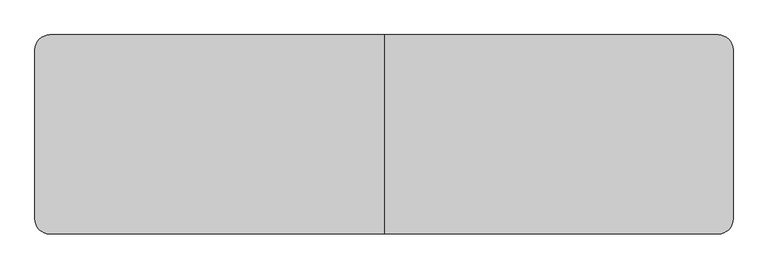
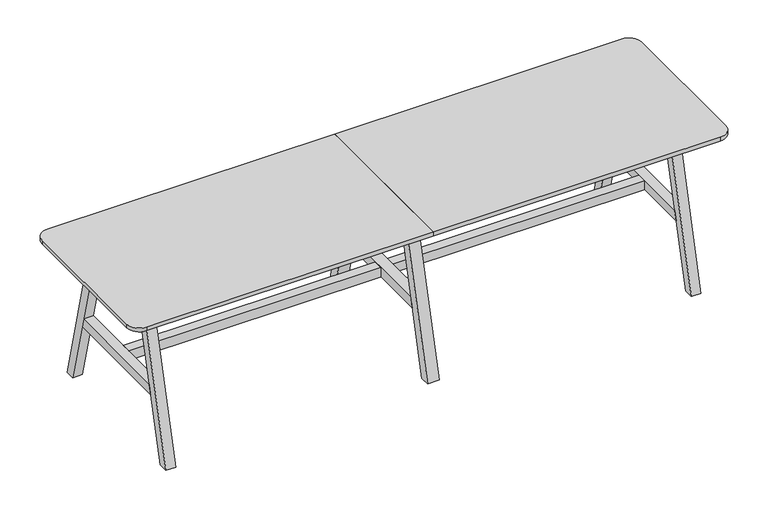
"""IFC4 building model written with IfcOpenShell, lengths in millimetres: furniture geometry, BDG_BossDesign_Tbls_AgentTables6Legs : AGE-DT-6L-2800-800-3D."""

from ifc_helpers import new_model, si_unit, point, frame, frame_2d, origin, place, context, project, spatial, polyline, circle_curve, trimmed, segment, composite_curve, outline, extrude, source, transform, mapped, element, save


def furniture_cf4d2565(model_context):
    return source(origin(), model_context, "Body", "SweptSolid", [
        extrude(outline(polyline([(400.0, 0.0), (354.9999949, 0.0), (185.5, 660.0), (230.5000051, 660.0), (400.0, 0.0)])), frame((-27.5, 0.0, 0.0), z_axis=(1.0, 0.0, 0.0), x_axis=(0.0, 1.0, 0.0)), (0.0, 0.0, 1.0), 55.0),
        extrude(outline(polyline([(-400.0, 0.0), (-230.5000051, 660.0), (-185.5, 660.0), (-354.9999949, 0.0), (-400.0, 0.0)])), frame((-27.5, 0.0, 0.0), z_axis=(1.0, 0.0, 0.0), x_axis=(0.0, 1.0, 0.0)), (0.0, 0.0, 1.0), 55.0),
        extrude(outline(polyline([(277.9545427, 300.0), (-277.9545427, 300.0), (-266.3977249, 345.0), (266.3977249, 345.0), (277.9545427, 300.0)])), frame((-27.5, 0.0, 0.0), z_axis=(1.0, 0.0, 0.0), x_axis=(0.0, 1.0, 0.0)), (0.0, 0.0, 1.0), 55.0),
        extrude(outline(composite_curve([segment(polyline([(0.0, 400.0), (0.0, -400.0), (-1340.0, -400.0)]), True, "CONTINUOUS"), segment(trimmed(circle_curve(frame_2d((-1340.0, -340.0)), 60.0), [point((-1340.0, -400.0))], [point((-1400.0, -340.0))], False, "CARTESIAN"), True, "CONTINUOUS"), segment(polyline([(-1400.0, -340.0), (-1400.0, 340.0)]), True, "CONTINUOUS"), segment(trimmed(circle_curve(frame_2d((-1340.0, 340.0)), 60.0), [point((-1400.0, 340.0))], [point((-1340.0, 400.0))], False, "CARTESIAN"), True, "CONTINUOUS"), segment(polyline([(-1340.0, 400.0), (0.0, 400.0)]), True, "CONTINUOUS")], self_intersect=False)), frame((0.0, 0.0, 722.0), z_axis=(0.0, 0.0, 1.0), x_axis=(1.0, 0.0, 0.0)), (0.0, 0.0, 1.0), 18.0),
        extrude(outline(polyline([(-266.3977249, 345.0), (266.3977249, 345.0), (277.9545427, 300.0), (-277.9545427, 300.0), (-266.3977249, 345.0)])), frame((1205.0, 0.0, 0.0), z_axis=(1.0, 0.0, 0.0), x_axis=(0.0, 1.0, 0.0)), (0.0, 0.0, 1.0), 45.0),
        extrude(outline(polyline([(400.0, 0.0), (354.9999949, 0.0), (185.5, 660.0), (230.5000051, 660.0), (400.0, 0.0)])), frame((-1250.0, 0.0, 0.0), z_axis=(1.0, 0.0, 0.0), x_axis=(0.0, 1.0, 0.0)), (0.0, 0.0, 1.0), 45.0),
        extrude(outline(polyline([(-400.0, 0.0), (-230.5000051, 660.0), (-185.5, 660.0), (-354.9999949, 0.0), (-400.0, 0.0)])), frame((-1250.0, 0.0, 0.0), z_axis=(1.0, 0.0, 0.0), x_axis=(0.0, 1.0, 0.0)), (0.0, 0.0, 1.0), 45.0),
        extrude(outline(polyline([(-266.3977249, 345.0), (266.3977249, 345.0), (277.9545427, 300.0), (-277.9545427, 300.0), (-266.3977249, 345.0)])), frame((-1250.0, 0.0, 0.0), z_axis=(1.0, 0.0, 0.0), x_axis=(0.0, 1.0, 0.0)), (0.0, 0.0, 1.0), 45.0),
        extrude(outline(polyline([(-226.6006165, 634.973938), (-204.2770691, 722.0), (-179.5, 722.0), (-201.8235474, 634.973938), (-226.6006165, 634.973938)])), frame((-1205.0, 0.0, 0.0), z_axis=(1.0, 0.0, 0.0), x_axis=(0.0, 1.0, 0.0)), (0.0, 0.0, 1.0), 2410.0),
        extrude(outline(polyline([(226.6006165, 634.973938), (201.8235474, 634.973938), (179.5, 722.0), (204.2770691, 722.0), (226.6006165, 634.973938)])), frame((-1205.0, 0.0, 0.0), z_axis=(1.0, 0.0, 0.0), x_axis=(0.0, 1.0, 0.0)), (0.0, 0.0, 1.0), 2410.0),
        extrude(outline(polyline([(399.7999878, 0.0), (354.7999827, 0.0), (185.5, 660.0), (230.5000051, 660.0), (399.7999878, 0.0)])), frame((1205.0, 0.0, 0.0), z_axis=(1.0, 0.0, 0.0), x_axis=(0.0, 1.0, 0.0)), (0.0, 0.0, 1.0), 45.0),
        extrude(outline(polyline([(-399.7999878, 0.0), (-230.5000051, 660.0), (-185.5, 660.0), (-354.7999827, 0.0), (-399.7999878, 0.0)])), frame((1205.0, 0.0, 0.0), z_axis=(1.0, 0.0, 0.0), x_axis=(0.0, 1.0, 0.0)), (0.0, 0.0, 1.0), 45.0),
        extrude(outline(polyline([(-27.5, 22.5000305), (-27.5, -22.5000305), (-1205.0, -22.5000305), (-1205.0, 22.5000305), (-27.5, 22.5000305)])), frame((0.0, 0.0, 300.0), z_axis=(0.0, 0.0, 1.0), x_axis=(1.0, 0.0, 0.0)), (0.0, 0.0, 1.0), 45.0),
        extrude(outline(polyline([(27.5, -22.5000305), (27.5, 22.5000305), (1205.0, 22.5000305), (1205.0, -22.5000305), (27.5, -22.5000305)])), frame((0.0, 0.0, 300.0), z_axis=(0.0, 0.0, 1.0), x_axis=(1.0, 0.0, 0.0)), (0.0, 0.0, 1.0), 45.0),
        extrude(outline(composite_curve([segment(trimmed(circle_curve(frame_2d((1340.0, 340.0)), 60.0), [point((1340.0, 400.0))], [point((1400.0, 340.0))], False, "CARTESIAN"), True, "CONTINUOUS"), segment(polyline([(1400.0, 340.0), (1400.0, -340.0)]), True, "CONTINUOUS"), segment(trimmed(circle_curve(frame_2d((1340.0, -340.0)), 60.0), [point((1400.0, -340.0))], [point((1340.0, -400.0))], False, "CARTESIAN"), True, "CONTINUOUS"), segment(polyline([(1340.0, -400.0), (0.0, -400.0), (0.0, 400.0), (1340.0, 400.0)]), True, "CONTINUOUS")], self_intersect=False)), frame((0.0, 0.0, 722.0), z_axis=(0.0, 0.0, 1.0), x_axis=(1.0, 0.0, 0.0)), (0.0, 0.0, 1.0), 18.0),
    ])


if __name__ == "__main__":
    model = new_model("IFC4")
    model_context = context("Model", 3, world=origin())
    ifc_project = project(units=[si_unit("LENGTHUNIT", "METRE", prefix="MILLI")], contexts=[model_context])
    site = spatial("IfcSite", under=ifc_project)
    building = spatial("IfcBuilding", under=site)
    placement = place(None, origin())
    furniture_shape = furniture_cf4d2565(model_context)
    element("IfcFurniture", 1, ObjectType="BDG_BossDesign_Tbls_AgentTables6Legs : AGE-DT-6L-2800-800-3D", at=placement, inside=building, context=model_context, shape_type="MappedRepresentation", body=[
        mapped(furniture_shape, transform((0.0, 0.0, 0.0), x_axis=(1.0, 0.0, 0.0), y_axis=(0.0, 1.0, 0.0), z_axis=(0.0, 0.0, 1.0))),
    ])
    save(model, "model.ifc")
